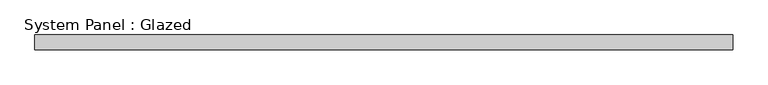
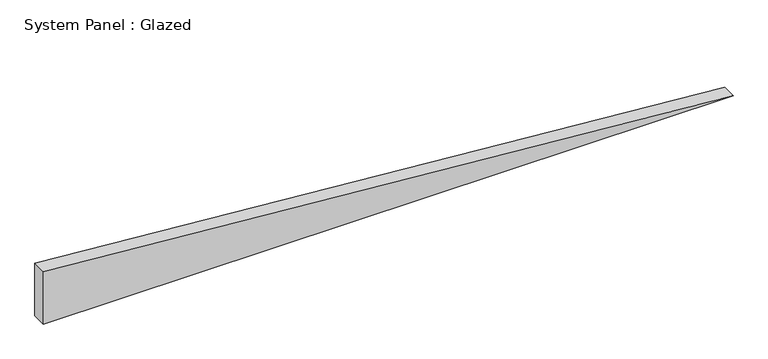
"""IFC4 building model written with IfcOpenShell, lengths in millimetres: plate geometry, System Panel : Glazed."""

from ifc_helpers import new_model, si_unit, frame, origin, place, context, project, spatial, polyline, outline, extrude, source, transform, mapped, element, save


def system_panel_glazed_7567f430(model_context):
    return source(origin(), model_context, "Body", "SweptSolid", [
        extrude(outline(polyline([(0.0, -592.358162), (0.0, 592.358162), (94.9322426, -592.358162), (0.0, -592.358162)])), frame((0.0, 19.05, 0.0), z_axis=(0.0, 1.0, 0.0), x_axis=(0.0, 0.0, 1.0)), (0.0, 0.0, 1.0), 25.4),
    ])


if __name__ == "__main__":
    model = new_model("IFC4")
    model_context = context("Model", 3, world=origin())
    ifc_project = project(units=[si_unit("LENGTHUNIT", "METRE", prefix="MILLI")], contexts=[model_context])
    site = spatial("IfcSite", under=ifc_project)
    building = spatial("IfcBuilding", under=site)
    placement = place(None, origin())
    system_panel_glazed_shape = system_panel_glazed_7567f430(model_context)
    element("IfcPlate", 1, ObjectType="System Panel : Glazed", at=placement, inside=building, context=model_context, shape_type="MappedRepresentation", body=[
        mapped(system_panel_glazed_shape, transform((0.0, 0.0, 0.0), x_axis=(1.0, 0.0, 0.0), y_axis=(0.0, 1.0, 0.0), z_axis=(0.0, 0.0, 1.0))),
    ])
    save(model, "model.ifc")
